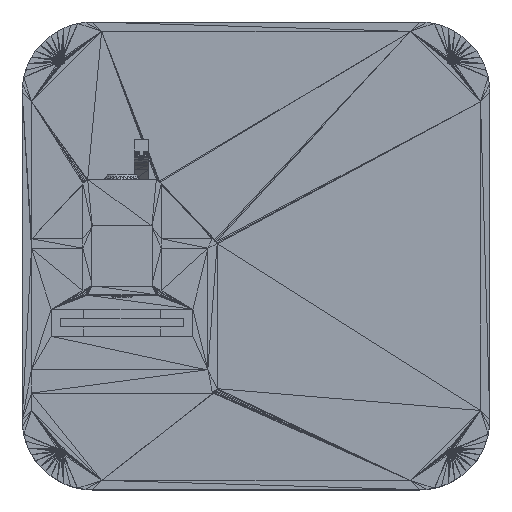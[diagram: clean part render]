
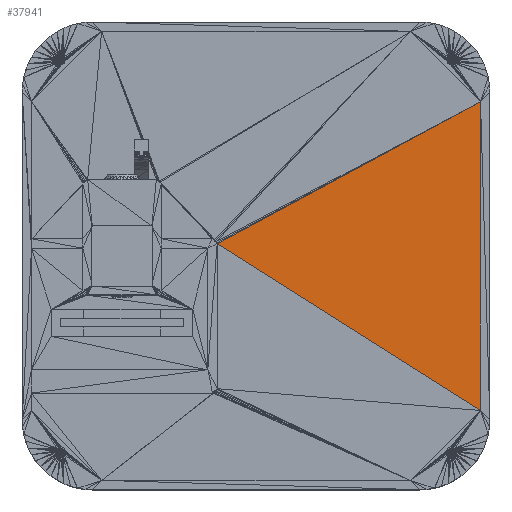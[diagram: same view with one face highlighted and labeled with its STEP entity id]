
A CAD part, top view. The second image highlights one B-rep face of the part: STEP entity #37941.
In plain terms, the highlighted planar face has unit normal (0, 0, 1).
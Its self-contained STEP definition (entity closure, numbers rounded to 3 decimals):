
#1043=FACE_OUTER_BOUND('',#3585,.T.);
#3585=EDGE_LOOP('',(#27262,#27263,#27264));
#7117=LINE('',#56933,#12310);
#7119=LINE('',#56937,#12312);
#7120=LINE('',#56938,#12313);
#12310=VECTOR('',#46194,1.);
#12312=VECTOR('',#46198,1.);
#12313=VECTOR('',#46199,1.);
#16823=VERTEX_POINT('',#56928);
#16824=VERTEX_POINT('',#56932);
#16825=VERTEX_POINT('',#56936);
#20491=EDGE_CURVE('',#16824,#16823,#7117,.T.);
#20493=EDGE_CURVE('',#16824,#16825,#7119,.T.);
#20494=EDGE_CURVE('',#16823,#16825,#7120,.T.);
#27262=ORIENTED_EDGE('',*,*,#20493,.F.);
#27263=ORIENTED_EDGE('',*,*,#20491,.T.);
#27264=ORIENTED_EDGE('',*,*,#20494,.T.);
#35405=PLANE('',#40655);
#37941=ADVANCED_FACE('',(#1043),#35405,.T.);
#40655=AXIS2_PLACEMENT_3D('',#56935,#46196,#46197);
#46194=DIRECTION('',(0.845,-0.535,0.));
#46196=DIRECTION('center_axis',(0.,0.,
1.));
#46197=DIRECTION('ref_axis',(1.,0.,0.));
#46198=DIRECTION('',(0.88,0.475,0.));
#46199=DIRECTION('',(0.,1.,0.));
#56928=CARTESIAN_POINT('',(48.,-33.,2.));
#56932=CARTESIAN_POINT('',(-8.3,2.65,2.));
#56933=CARTESIAN_POINT('',(-8.3,2.65,2.));
#56935=CARTESIAN_POINT('Origin',(48.,-33.,2.));
#56936=CARTESIAN_POINT('',(48.,33.,2.));
#56937=CARTESIAN_POINT('',(-8.3,2.65,2.));
#56938=CARTESIAN_POINT('',(48.,-33.,2.));
